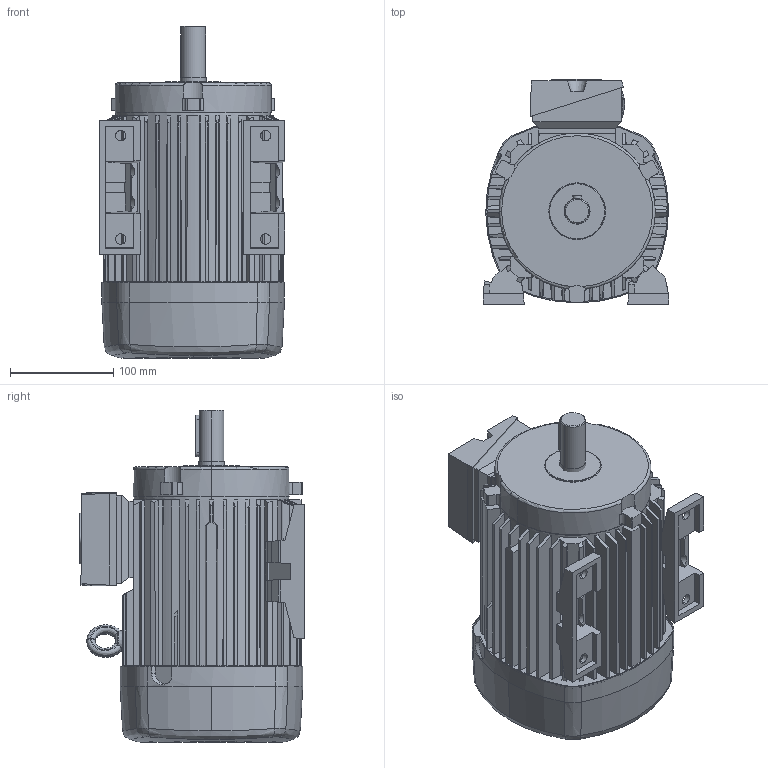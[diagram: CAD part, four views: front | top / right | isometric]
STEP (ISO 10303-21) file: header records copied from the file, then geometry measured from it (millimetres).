
FILE_DESCRIPTION (( 'STEP AP214' ), '1' );
FILE_NAME ('K_R_GF90S-90S_B3_24x50.STEP', '2017-01-31T08:40:41', ( '' ), ( '' ), 'SwSTEP 2.0', 'SolidWorks 2013', '' );
FILE_SCHEMA (( 'AUTOMOTIVE_DESIGN' ));
Length unit declared in the file: millimetre
Products named in the file (10): Ringschraube_M8; LHB_Kat_LHB09; LD_Kat_LD09; WE_Kat_24x50 (K20R90); KA05_komplett_Kat; KD05_Kat; Verschluß_Kat; KA05_Kat; GF90S_90S_Kat; K_R_GF90S-90S_B3_24x50
Assembly tree (9 placements, depth 3):
  K_R_GF90S-90S_B3_24x50
    GF90S_90S_Kat
    KA05_komplett_Kat
      KA05_Kat
      Verschluß_Kat
      KD05_Kat
    WE_Kat_24x50 (K20R90)
    LD_Kat_LD09
    LHB_Kat_LHB09
    Ringschraube_M8
Bounding box: 179.74 x 217.61 x 321 mm (x, y, z)
Volume: 6277383.9 mm3; surface area: 496455.6 mm2
Topology: 13 solids, 13 shells, 587 faces, 1555 edges, 1002 vertices
Faces by surface type: plane 381, cylinder 89, cone 87, bspline 16, torus 12, sphere 2
Entity records: 24652 total; most frequent: CARTESIAN_POINT 5764, ORIENTED_EDGE 3110, DIRECTION 2743, EDGE_CURVE 1555, VERTEX_POINT 1002, AXIS2_PLACEMENT_3D 926, VECTOR 891, LINE 891
